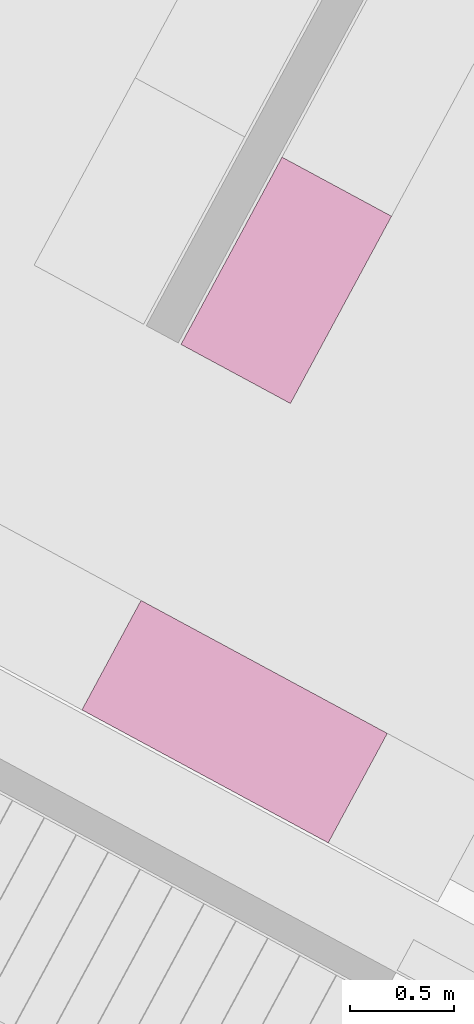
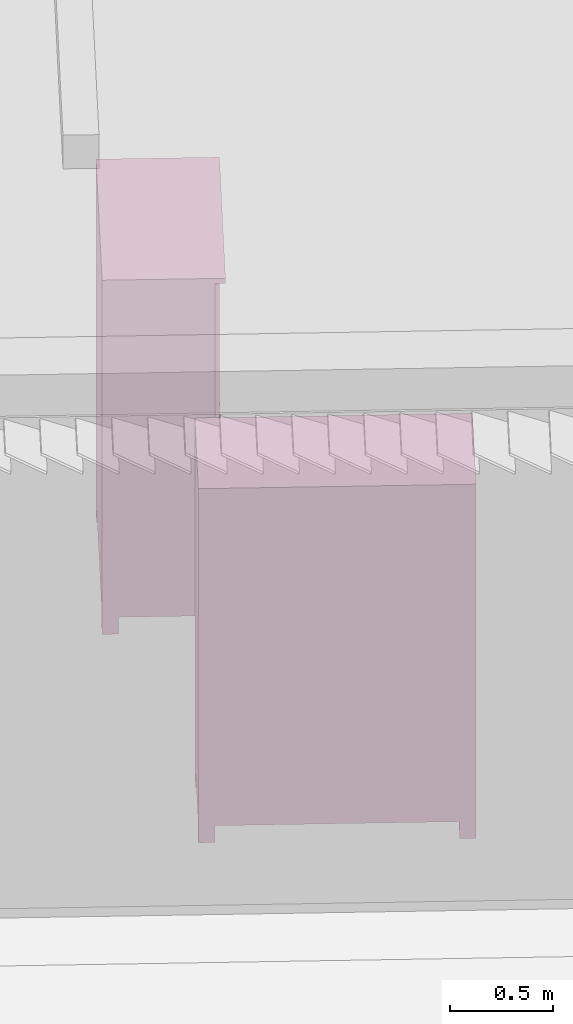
# One storey, part 27 of 48: 2 furnishings.
"""IFC2X3 building model written with IfcOpenShell, lengths in metres."""

from ifc_helpers import new_model, entity, si_unit, converted_unit, derived_unit, money_unit, direction, frame, origin_with_axes, place, context, subcontext, project, spatial, faceted_brep, type_object, element, save


model = new_model("IFC2X3")

# Units and contexts
model_context = context("Model", 3, precision=1e-05, world=origin_with_axes(), true_north=direction((0.0, 1.0)))
body_context = subcontext(model_context, "Body", "Model", "MODEL_VIEW")
ifc_project = project(units=[si_unit("LENGTHUNIT", "METRE"), si_unit("AREAUNIT", "SQUARE_METRE"), si_unit("VOLUMEUNIT", "CUBIC_METRE"), converted_unit("PLANEANGLEUNIT", "DEGREE", entity("IfcPlaneAngleMeasure", 0.0174532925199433), si_unit("PLANEANGLEUNIT", "RADIAN"), dimensions=[0, 0, 0, 0, 0, 0, 0]), money_unit("EUR"), converted_unit("TIMEUNIT", "Year", entity("IfcTimeMeasure", 31556926.0), si_unit("TIMEUNIT", "SECOND"), dimensions=[0, 0, 1, 0, 0, 0, 0]), si_unit("MASSUNIT", "GRAM", prefix="KILO"), si_unit("THERMODYNAMICTEMPERATUREUNIT", "DEGREE_CELSIUS"), si_unit("LUMINOUSINTENSITYUNIT", "LUMEN"), si_unit("ENERGYUNIT", "JOULE", prefix="MEGA"), derived_unit("THERMALCONDUCTANCEUNIT", [(si_unit("POWERUNIT", "WATT"), 1), (si_unit("LENGTHUNIT", "METRE"), -1), (si_unit("THERMODYNAMICTEMPERATUREUNIT", "KELVIN"), -1)]), derived_unit("SPECIFICHEATCAPACITYUNIT", [(si_unit("ENERGYUNIT", "JOULE"), 1), (si_unit("MASSUNIT", "GRAM", prefix="KILO"), -1), (si_unit("THERMODYNAMICTEMPERATUREUNIT", "KELVIN"), -1)]), derived_unit("MASSDENSITYUNIT", [(si_unit("MASSUNIT", "GRAM", prefix="KILO"), 1), (si_unit("VOLUMEUNIT", "CUBIC_METRE"), -1)])], contexts=[model_context])

# Site, building, storey
site_placement = place(None, frame((-3.949935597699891, 1.740105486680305, 0.0), z_axis=(0.0, 0.0, 1.0), x_axis=(0.8799804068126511, -0.475009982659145, 0.0)))
site = spatial("IfcSite", under=ifc_project, at=site_placement, Name="Gelände", CompositionType="ELEMENT")
building_placement = place(site_placement, origin_with_axes())
building = spatial("IfcBuilding", under=site, at=building_placement, Name="Gebäude", CompositionType="ELEMENT")
storey_placement = place(building_placement, frame((0.0, 0.0, 4.55), z_axis=(0.0, 0.0, 1.0), x_axis=(1.0, 0.0, 0.0)))
storey = spatial("IfcBuildingStorey", under=building, at=storey_placement, Name="Staffelgeschoss", CompositionType="ELEMENT", Elevation=4.55)

# Furnishings
furnishing_element_type = type_object("IfcFurnishingElementType", Name="Kleiderschrank 22")
furnishing_1_placement = place(storey_placement, frame((17.20040854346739, 2.239992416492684, 0.0), z_axis=(0.0, 0.0, 1.0), x_axis=(-1.0, 0.0, 0.0)))
element("IfcFurnishingElement", 1, at=furnishing_1_placement, inside=storey, type_object=furnishing_element_type, Name="Objekt-0066", context=body_context, shape_type="Brep", body=[
    faceted_brep([(-0.02000000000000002, 0.6000000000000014, 0.12), (-0.02000000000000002, 0.6000000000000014, 2.05), (-0.02000000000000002, 0.5800000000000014, 2.05), (-0.02000000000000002, 0.5800000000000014, 0.12), (-1.330000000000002, 0.6000000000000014, 0.12), (-1.330000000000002, 0.6000000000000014, 2.05), (-1.330000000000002, 0.5800000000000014, 2.05), (-1.330000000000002, 0.5800000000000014, 0.12)], [[[0, 1, 2, 3]], [[4, 5, 1, 0]], [[1, 5, 6, 2]], [[3, 2, 6, 7]], [[0, 3, 7, 4]], [[7, 6, 5, 4]]]),
    faceted_brep([(-1.350000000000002, 0.05000000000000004, 0.1), (-1.350000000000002, 0.6000000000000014, 0.1), (-1.330000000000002, 0.6000000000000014, 0.1), (-1.330000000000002, 0.05000000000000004, 0.1), (-1.350000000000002, 0.05000000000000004, 2.07), (-1.350000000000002, 0.6000000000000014, 2.07), (-1.330000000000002, 0.6000000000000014, 2.07), (-1.330000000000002, 0.05000000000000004, 2.07)], [[[0, 1, 2, 3]], [[0, 4, 5, 1]], [[1, 5, 6, 2]], [[2, 6, 7, 3]], [[3, 7, 4, 0]], [[7, 6, 5, 4]]]),
    faceted_brep([(-0.02, 0.05000000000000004, 0.1), (-0.02, 0.6000000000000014, 0.1), (0.0, 0.6000000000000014, 0.1), (0.0, 0.05000000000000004, 0.1), (-0.02, 0.05000000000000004, 2.07), (-0.02, 0.6000000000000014, 2.07), (0.0, 0.6000000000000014, 2.07), (0.0, 0.05000000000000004, 2.07)], [[[0, 1, 2, 3]], [[0, 4, 5, 1]], [[1, 5, 6, 2]], [[2, 6, 7, 3]], [[3, 7, 4, 0]], [[7, 6, 5, 4]]]),
    faceted_brep([(-1.330000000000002, 0.05000000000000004, 0.1), (-1.330000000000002, 0.6000000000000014, 0.1), (-0.02000000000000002, 0.6000000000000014, 0.1), (-0.02000000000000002, 0.05000000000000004, 0.1), (-1.330000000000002, 0.05000000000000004, 0.12), (-1.330000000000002, 0.6000000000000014, 0.12), (-0.02000000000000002, 0.6000000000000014, 0.12), (-0.02000000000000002, 0.05000000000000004, 0.12)], [[[0, 1, 2, 3]], [[0, 4, 5, 1]], [[1, 5, 6, 2]], [[2, 6, 7, 3]], [[3, 7, 4, 0]], [[7, 6, 5, 4]]]),
    faceted_brep([(-1.330000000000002, 0.05000000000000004, 2.05), (-1.330000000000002, 0.6000000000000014, 2.05), (-0.02000000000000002, 0.6000000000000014, 2.05), (-0.02000000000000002, 0.05000000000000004, 2.05), (-1.330000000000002, 0.05000000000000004, 2.07), (-1.330000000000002, 0.6000000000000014, 2.07), (-0.02000000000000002, 0.6000000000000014, 2.07), (-0.02000000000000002, 0.05000000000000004, 2.07)], [[[0, 1, 2, 3]], [[0, 4, 5, 1]], [[1, 5, 6, 2]], [[2, 6, 7, 3]], [[3, 7, 4, 0]], [[7, 6, 5, 4]]]),
    faceted_brep([(-1.350000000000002, 0.6000000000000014, 2.07), (-1.350000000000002, 0.0, 2.07), (-1.350000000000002, 0.0, 2.1), (-1.350000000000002, 0.6000000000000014, 2.1), (0.0, 0.6000000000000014, 2.07), (0.0, 0.0, 2.07), (0.0, 0.0, 2.1), (0.0, 0.6000000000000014, 2.1)], [[[0, 1, 2, 3]], [[0, 4, 5, 1]], [[1, 5, 6, 2]], [[3, 2, 6, 7]], [[4, 0, 3, 7]], [[5, 4, 7, 6]]]),
    faceted_brep([(-0.08000000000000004, 0.5200000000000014, 0.0), (-0.08000000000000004, 0.5200000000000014, 0.1), (-0.08000000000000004, 0.6000000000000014, 0.1), (-0.08000000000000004, 0.6000000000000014, 0.0), (0.0, 0.5200000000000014, 0.0), (0.0, 0.5200000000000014, 0.1), (0.0, 0.6000000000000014, 0.1), (0.0, 0.6000000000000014, 0.0)], [[[0, 1, 2, 3]], [[4, 5, 1, 0]], [[1, 5, 6, 2]], [[3, 2, 6, 7]], [[0, 3, 7, 4]], [[7, 6, 5, 4]]]),
    faceted_brep([(-1.350000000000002, 0.5200000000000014, 0.0), (-1.350000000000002, 0.5200000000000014, 0.1), (-1.350000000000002, 0.6000000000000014, 0.1), (-1.350000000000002, 0.6000000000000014, 0.0), (-1.270000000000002, 0.5200000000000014, 0.0), (-1.270000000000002, 0.5200000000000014, 0.1), (-1.270000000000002, 0.6000000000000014, 0.1), (-1.270000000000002, 0.6000000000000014, 0.0)], [[[0, 1, 2, 3]], [[4, 5, 1, 0]], [[1, 5, 6, 2]], [[3, 2, 6, 7]], [[0, 3, 7, 4]], [[7, 6, 5, 4]]]),
    faceted_brep([(-0.08000000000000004, 0.05000000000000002, 0.0), (-0.08000000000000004, 0.05000000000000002, 0.1), (-0.08000000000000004, 0.13, 0.1), (-0.08000000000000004, 0.13, 0.0), (0.0, 0.05000000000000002, 0.0), (0.0, 0.05000000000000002, 0.1), (0.0, 0.13, 0.1), (0.0, 0.13, 0.0)], [[[0, 1, 2, 3]], [[4, 5, 1, 0]], [[1, 5, 6, 2]], [[3, 2, 6, 7]], [[0, 3, 7, 4]], [[7, 6, 5, 4]]]),
    faceted_brep([(-1.350000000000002, 0.05000000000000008, 0.0), (-1.350000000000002, 0.05000000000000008, 0.1), (-1.350000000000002, 0.1300000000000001, 0.1), (-1.350000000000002, 0.1300000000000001, 0.0), (-1.270000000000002, 0.05000000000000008, 0.0), (-1.270000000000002, 0.05000000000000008, 0.1), (-1.270000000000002, 0.1300000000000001, 0.1), (-1.270000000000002, 0.1300000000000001, 0.0)], [[[0, 1, 2, 3]], [[4, 5, 1, 0]], [[1, 5, 6, 2]], [[3, 2, 6, 7]], [[0, 3, 7, 4]], [[7, 6, 5, 4]]]),
    faceted_brep([(-0.6745000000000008, 0.05, 0.1104999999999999), (-0.6745000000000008, 0.03, 0.1104999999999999), (-0.6745000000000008, 0.03000000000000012, 2.0595), (-0.6745000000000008, 0.05000000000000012, 2.0595), (-0.6445000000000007, 0.05, 0.1405), (-0.6445000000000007, 0.03000000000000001, 0.1405), (-0.6445000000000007, 0.03000000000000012, 2.0295), (-0.6445000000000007, 0.05000000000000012, 2.0295)], [[[0, 1, 2, 3]], [[4, 5, 1, 0]], [[1, 5, 6, 2]], [[3, 2, 6, 7]], [[0, 3, 7, 4]], [[7, 6, 5, 4]]]),
    faceted_brep([(-0.04050000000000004, 0.05, 0.1405), (-0.04050000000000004, 0.03000000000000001, 0.1405), (-0.04050000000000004, 0.03000000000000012, 2.0295), (-0.04050000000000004, 0.05000000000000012, 2.0295), (-0.01050000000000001, 0.05, 0.1104999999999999), (-0.01050000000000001, 0.03, 0.1104999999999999), (-0.01050000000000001, 0.03000000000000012, 2.0595), (-0.01050000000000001, 0.05000000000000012, 2.0595)], [[[0, 1, 2, 3]], [[4, 5, 1, 0]], [[1, 5, 6, 2]], [[3, 2, 6, 7]], [[0, 3, 7, 4]], [[7, 6, 5, 4]]]),
    faceted_brep([(-0.01050000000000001, 0.05, 0.1104999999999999), (-0.01050000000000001, 0.03, 0.1104999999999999), (-0.6745000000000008, 0.03, 0.1104999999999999), (-0.6745000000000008, 0.05, 0.1104999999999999), (-0.04050000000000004, 0.05, 0.1405), (-0.04050000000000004, 0.03000000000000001, 0.1405), (-0.6445000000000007, 0.03000000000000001, 0.1405), (-0.6445000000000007, 0.05, 0.1405)], [[[0, 1, 2, 3]], [[4, 5, 1, 0]], [[1, 5, 6, 2]], [[3, 2, 6, 7]], [[0, 3, 7, 4]], [[7, 6, 5, 4]]]),
    faceted_brep([(-0.04050000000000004, 0.05000000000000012, 2.0295), (-0.04050000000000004, 0.03000000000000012, 2.0295), (-0.6445000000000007, 0.03000000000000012, 2.0295), (-0.6445000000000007, 0.05000000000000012, 2.0295), (-0.01050000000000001, 0.05000000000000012, 2.0595), (-0.01050000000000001, 0.03000000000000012, 2.0595), (-0.6745000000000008, 0.03000000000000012, 2.0595), (-0.6745000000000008, 0.05000000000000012, 2.0595)], [[[0, 1, 2, 3]], [[4, 5, 1, 0]], [[1, 5, 6, 2]], [[3, 2, 6, 7]], [[0, 3, 7, 4]], [[7, 6, 5, 4]]]),
    faceted_brep([(-0.6445000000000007, 0.04500000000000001, 0.1405), (-0.6445000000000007, 0.035, 0.1405), (-0.6445000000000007, 0.03500000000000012, 2.0295), (-0.6445000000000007, 0.04500000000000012, 2.0295), (-0.04050000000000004, 0.04500000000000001, 0.1405), (-0.04050000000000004, 0.035, 0.1405), (-0.04050000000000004, 0.03500000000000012, 2.0295), (-0.04050000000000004, 0.04500000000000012, 2.0295)], [[[0, 1, 2, 3]], [[4, 5, 1, 0]], [[1, 5, 6, 2]], [[3, 2, 6, 7]], [[0, 3, 7, 4]], [[7, 6, 5, 4]]]),
    faceted_brep([(-0.6343923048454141, 0.035, 0.954), (-0.6360000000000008, 0.035, 0.96), (-0.6343923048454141, 0.035, 0.966), (-0.6300000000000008, 0.035, 0.9703923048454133), (-0.6240000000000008, 0.035, 0.972), (-0.6180000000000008, 0.035, 0.9703923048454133), (-0.6136076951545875, 0.035, 0.966), (-0.6120000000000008, 0.035, 0.96), (-0.6136076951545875, 0.035, 0.954), (-0.6180000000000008, 0.035, 0.9496076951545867), (-0.6240000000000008, 0.035, 0.948), (-0.6300000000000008, 0.035, 0.9496076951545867), (-0.6343923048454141, 0.01, 0.954), (-0.6360000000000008, 0.01, 0.96), (-0.6343923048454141, 0.01, 0.966), (-0.6300000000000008, 0.01, 0.9703923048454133), (-0.6240000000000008, 0.01, 0.972), (-0.6180000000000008, 0.01, 0.9703923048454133), (-0.6136076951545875, 0.01, 0.966), (-0.6120000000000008, 0.01, 0.96), (-0.6136076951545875, 0.01, 0.954), (-0.6180000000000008, 0.01, 0.9496076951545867), (-0.6240000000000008, 0.01, 0.948), (-0.6300000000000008, 0.01, 0.9496076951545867)], [[[0, 1, 2, 3, 4, 5, 6, 7, 8, 9, 10, 11]], [[0, 12, 13, 1]], [[1, 13, 14, 2]], [[2, 14, 15, 3]], [[3, 15, 16, 4]], [[4, 16, 17, 5]], [[5, 17, 18, 6]], [[6, 18, 19, 7]], [[7, 19, 20, 8]], [[8, 20, 21, 9]], [[9, 21, 22, 10]], [[10, 22, 23, 11]], [[11, 23, 12, 0]], [[12, 23, 22, 21, 20, 19, 18, 17, 16, 15, 14, 13]]]),
    faceted_brep([(-1.340500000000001, 0.05, 0.1104999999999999), (-1.340500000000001, 0.03, 0.1104999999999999), (-1.340500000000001, 0.03000000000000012, 2.0595), (-1.340500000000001, 0.05000000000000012, 2.0595), (-1.310500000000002, 0.05, 0.1405), (-1.310500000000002, 0.03000000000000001, 0.1405), (-1.310500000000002, 0.03000000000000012, 2.0295), (-1.310500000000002, 0.05000000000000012, 2.0295)], [[[0, 1, 2, 3]], [[4, 5, 1, 0]], [[1, 5, 6, 2]], [[3, 2, 6, 7]], [[0, 3, 7, 4]], [[7, 6, 5, 4]]]),
    faceted_brep([(-0.7065000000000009, 0.05, 0.1405), (-0.7065000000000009, 0.03000000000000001, 0.1405), (-0.7065000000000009, 0.03000000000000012, 2.0295), (-0.7065000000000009, 0.05000000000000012, 2.0295), (-0.6765000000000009, 0.05, 0.1104999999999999), (-0.6765000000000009, 0.03, 0.1104999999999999), (-0.6765000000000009, 0.03000000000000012, 2.0595), (-0.6765000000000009, 0.05000000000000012, 2.0595)], [[[0, 1, 2, 3]], [[4, 5, 1, 0]], [[1, 5, 6, 2]], [[3, 2, 6, 7]], [[0, 3, 7, 4]], [[7, 6, 5, 4]]]),
    faceted_brep([(-0.6765000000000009, 0.05, 0.1104999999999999), (-0.6765000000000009, 0.03, 0.1104999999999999), (-1.340500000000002, 0.03, 0.1104999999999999), (-1.340500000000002, 0.05, 0.1104999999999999), (-0.7065000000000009, 0.05, 0.1405), (-0.7065000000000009, 0.03000000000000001, 0.1405), (-1.310500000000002, 0.03000000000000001, 0.1405), (-1.310500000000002, 0.05, 0.1405)], [[[0, 1, 2, 3]], [[4, 5, 1, 0]], [[1, 5, 6, 2]], [[3, 2, 6, 7]], [[0, 3, 7, 4]], [[7, 6, 5, 4]]]),
    faceted_brep([(-0.7065000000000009, 0.05000000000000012, 2.0295), (-0.7065000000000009, 0.03000000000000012, 2.0295), (-1.310500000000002, 0.03000000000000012, 2.0295), (-1.310500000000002, 0.05000000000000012, 2.0295), (-0.6765000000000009, 0.05000000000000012, 2.0595), (-0.6765000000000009, 0.03000000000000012, 2.0595), (-1.340500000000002, 0.03000000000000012, 2.0595), (-1.340500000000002, 0.05000000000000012, 2.0595)], [[[0, 1, 2, 3]], [[4, 5, 1, 0]], [[1, 5, 6, 2]], [[3, 2, 6, 7]], [[0, 3, 7, 4]], [[7, 6, 5, 4]]]),
    faceted_brep([(-1.310500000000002, 0.04500000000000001, 0.1405), (-1.310500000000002, 0.04000000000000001, 0.1405), (-1.310500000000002, 0.04000000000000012, 2.0295), (-1.310500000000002, 0.04500000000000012, 2.0295), (-0.7065000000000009, 0.04500000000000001, 0.1405), (-0.7065000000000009, 0.04000000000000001, 0.1405), (-0.7065000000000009, 0.04000000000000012, 2.0295), (-0.7065000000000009, 0.04500000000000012, 2.0295)], [[[0, 1, 2, 3]], [[4, 5, 1, 0]], [[1, 5, 6, 2]], [[3, 2, 6, 7]], [[0, 3, 7, 4]], [[7, 6, 5, 4]]]),
    faceted_brep([(-1.310500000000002, 0.04000000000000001, 0.1405), (-1.310500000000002, 0.03500000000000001, 0.1405), (-1.310500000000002, 0.03500000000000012, 2.0295), (-1.310500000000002, 0.04000000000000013, 2.0295), (-0.7065000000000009, 0.04000000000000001, 0.1405), (-0.7065000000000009, 0.03500000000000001, 0.1405), (-0.7065000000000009, 0.03500000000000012, 2.0295), (-0.7065000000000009, 0.04000000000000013, 2.0295)], [[[0, 1, 2, 3]], [[4, 5, 1, 0]], [[1, 5, 6, 2]], [[3, 2, 6, 7]], [[0, 3, 7, 4]], [[7, 6, 5, 4]]]),
    faceted_brep([(-0.7156076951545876, 0.035, 0.954), (-0.7200000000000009, 0.035, 0.9496076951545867), (-0.7260000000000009, 0.035, 0.948), (-0.7320000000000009, 0.035, 0.9496076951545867), (-0.7363923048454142, 0.035, 0.954), (-0.7380000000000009, 0.035, 0.96), (-0.7363923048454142, 0.035, 0.966), (-0.7320000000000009, 0.035, 0.9703923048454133), (-0.7260000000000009, 0.035, 0.972), (-0.7200000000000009, 0.035, 0.9703923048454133), (-0.7156076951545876, 0.035, 0.966), (-0.7140000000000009, 0.035, 0.96), (-0.7156076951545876, 0.01, 0.954), (-0.7200000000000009, 0.01, 0.9496076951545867), (-0.7260000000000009, 0.01, 0.948), (-0.7320000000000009, 0.01, 0.9496076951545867), (-0.7363923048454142, 0.01, 0.954), (-0.7380000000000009, 0.01, 0.96), (-0.7363923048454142, 0.01, 0.966), (-0.7320000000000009, 0.01, 0.9703923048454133), (-0.7260000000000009, 0.01, 0.972), (-0.7200000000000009, 0.01, 0.9703923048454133), (-0.7156076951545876, 0.01, 0.966), (-0.7140000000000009, 0.01, 0.96)], [[[0, 1, 2, 3, 4, 5, 6, 7, 8, 9, 10, 11]], [[1, 0, 12, 13]], [[2, 1, 13, 14]], [[3, 2, 14, 15]], [[4, 3, 15, 16]], [[5, 4, 16, 17]], [[6, 5, 17, 18]], [[7, 6, 18, 19]], [[8, 7, 19, 20]], [[9, 8, 20, 21]], [[10, 9, 21, 22]], [[11, 10, 22, 23]], [[0, 11, 23, 12]], [[12, 23, 22, 21, 20, 19, 18, 17, 16, 15, 14, 13]]]),
])
furnishing_2_placement = place(storey_placement, frame((17.38349488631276, 4.444526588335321, 0.0), z_axis=(0.0, 0.0, 1.0), x_axis=(0.0, 1.0, 0.0)))
element("IfcFurnishingElement", 2, at=furnishing_2_placement, inside=storey, type_object=furnishing_element_type, Name="Objekt-0066", context=body_context, shape_type="Brep", body=[
    faceted_brep([(-0.02000000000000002, 0.6000000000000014, 0.12), (-0.02000000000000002, 0.6000000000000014, 2.05), (-0.02000000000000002, 0.5800000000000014, 2.05), (-0.02000000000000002, 0.5800000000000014, 0.12), (-1.006465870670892, 0.6000000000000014, 0.12), (-1.006465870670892, 0.6000000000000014, 2.05), (-1.006465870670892, 0.5800000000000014, 2.05), (-1.006465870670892, 0.5800000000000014, 0.12)], [[[0, 1, 2, 3]], [[4, 5, 1, 0]], [[1, 5, 6, 2]], [[3, 2, 6, 7]], [[0, 3, 7, 4]], [[7, 6, 5, 4]]]),
    faceted_brep([(-1.026465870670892, 0.05000000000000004, 0.1), (-1.026465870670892, 0.6000000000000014, 0.1), (-1.006465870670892, 0.6000000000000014, 0.1), (-1.006465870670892, 0.05000000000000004, 0.1), (-1.026465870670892, 0.05000000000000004, 2.07), (-1.026465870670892, 0.6000000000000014, 2.07), (-1.006465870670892, 0.6000000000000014, 2.07), (-1.006465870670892, 0.05000000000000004, 2.07)], [[[0, 1, 2, 3]], [[0, 4, 5, 1]], [[1, 5, 6, 2]], [[2, 6, 7, 3]], [[3, 7, 4, 0]], [[7, 6, 5, 4]]]),
    faceted_brep([(-0.02, 0.05000000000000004, 0.1), (-0.02, 0.6000000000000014, 0.1), (0.0, 0.6000000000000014, 0.1), (0.0, 0.05000000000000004, 0.1), (-0.02, 0.05000000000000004, 2.07), (-0.02, 0.6000000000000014, 2.07), (0.0, 0.6000000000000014, 2.07), (0.0, 0.05000000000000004, 2.07)], [[[0, 1, 2, 3]], [[0, 4, 5, 1]], [[1, 5, 6, 2]], [[2, 6, 7, 3]], [[3, 7, 4, 0]], [[7, 6, 5, 4]]]),
    faceted_brep([(-1.006465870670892, 0.05000000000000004, 0.1), (-1.006465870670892, 0.6000000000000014, 0.1), (-0.02000000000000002, 0.6000000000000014, 0.1), (-0.02000000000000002, 0.05000000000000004, 0.1), (-1.006465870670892, 0.05000000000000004, 0.12), (-1.006465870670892, 0.6000000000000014, 0.12), (-0.02000000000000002, 0.6000000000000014, 0.12), (-0.02000000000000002, 0.05000000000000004, 0.12)], [[[0, 1, 2, 3]], [[0, 4, 5, 1]], [[1, 5, 6, 2]], [[2, 6, 7, 3]], [[3, 7, 4, 0]], [[7, 6, 5, 4]]]),
    faceted_brep([(-1.006465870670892, 0.05000000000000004, 2.05), (-1.006465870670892, 0.6000000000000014, 2.05), (-0.02000000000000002, 0.6000000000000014, 2.05), (-0.02000000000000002, 0.05000000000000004, 2.05), (-1.006465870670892, 0.05000000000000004, 2.07), (-1.006465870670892, 0.6000000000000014, 2.07), (-0.02000000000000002, 0.6000000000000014, 2.07), (-0.02000000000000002, 0.05000000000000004, 2.07)], [[[0, 1, 2, 3]], [[0, 4, 5, 1]], [[1, 5, 6, 2]], [[2, 6, 7, 3]], [[3, 7, 4, 0]], [[7, 6, 5, 4]]]),
    faceted_brep([(-1.026465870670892, 0.6000000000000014, 2.07), (-1.026465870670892, 0.0, 2.07), (-1.026465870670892, 0.0, 2.1), (-1.026465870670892, 0.6000000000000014, 2.1), (0.0, 0.6000000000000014, 2.07), (0.0, 0.0, 2.07), (0.0, 0.0, 2.1), (0.0, 0.6000000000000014, 2.1)], [[[0, 1, 2, 3]], [[0, 4, 5, 1]], [[1, 5, 6, 2]], [[3, 2, 6, 7]], [[4, 0, 3, 7]], [[5, 4, 7, 6]]]),
    faceted_brep([(-0.07999999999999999, 0.5200000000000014, 0.0), (-0.07999999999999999, 0.5200000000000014, 0.1), (-0.07999999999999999, 0.6000000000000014, 0.1), (-0.07999999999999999, 0.6000000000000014, 0.0), (0.0, 0.5200000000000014, 0.0), (0.0, 0.5200000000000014, 0.1), (0.0, 0.6000000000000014, 0.1), (0.0, 0.6000000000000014, 0.0)], [[[0, 1, 2, 3]], [[4, 5, 1, 0]], [[1, 5, 6, 2]], [[3, 2, 6, 7]], [[0, 3, 7, 4]], [[7, 6, 5, 4]]]),
    faceted_brep([(-1.026465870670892, 0.5200000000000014, 0.0), (-1.026465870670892, 0.5200000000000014, 0.1), (-1.026465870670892, 0.6000000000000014, 0.1), (-1.026465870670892, 0.6000000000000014, 0.0), (-0.9464658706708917, 0.5200000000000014, 0.0), (-0.9464658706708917, 0.5200000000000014, 0.1), (-0.9464658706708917, 0.6000000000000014, 0.1), (-0.9464658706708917, 0.6000000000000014, 0.0)], [[[0, 1, 2, 3]], [[4, 5, 1, 0]], [[1, 5, 6, 2]], [[3, 2, 6, 7]], [[0, 3, 7, 4]], [[7, 6, 5, 4]]]),
    faceted_brep([(-0.07999999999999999, 0.05000000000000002, 0.0), (-0.07999999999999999, 0.05000000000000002, 0.1), (-0.07999999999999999, 0.13, 0.1), (-0.07999999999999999, 0.13, 0.0), (0.0, 0.05000000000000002, 0.0), (0.0, 0.05000000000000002, 0.1), (0.0, 0.13, 0.1), (0.0, 0.13, 0.0)], [[[0, 1, 2, 3]], [[4, 5, 1, 0]], [[1, 5, 6, 2]], [[3, 2, 6, 7]], [[0, 3, 7, 4]], [[7, 6, 5, 4]]]),
    faceted_brep([(-1.026465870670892, 0.05000000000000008, 0.0), (-1.026465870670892, 0.05000000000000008, 0.1), (-1.026465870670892, 0.1300000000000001, 0.1), (-1.026465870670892, 0.1300000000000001, 0.0), (-0.9464658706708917, 0.05000000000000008, 0.0), (-0.9464658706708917, 0.05000000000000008, 0.1), (-0.9464658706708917, 0.1300000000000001, 0.1), (-0.9464658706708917, 0.1300000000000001, 0.0)], [[[0, 1, 2, 3]], [[4, 5, 1, 0]], [[1, 5, 6, 2]], [[3, 2, 6, 7]], [[0, 3, 7, 4]], [[7, 6, 5, 4]]]),
    faceted_brep([(-0.512732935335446, 0.05, 0.1104999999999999), (-0.512732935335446, 0.03, 0.1104999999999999), (-0.512732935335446, 0.03000000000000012, 2.0595), (-0.512732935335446, 0.05000000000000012, 2.0595), (-0.4827329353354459, 0.05, 0.1405), (-0.4827329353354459, 0.03000000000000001, 0.1405), (-0.4827329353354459, 0.03000000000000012, 2.0295), (-0.4827329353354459, 0.05000000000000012, 2.0295)], [[[0, 1, 2, 3]], [[4, 5, 1, 0]], [[1, 5, 6, 2]], [[3, 2, 6, 7]], [[0, 3, 7, 4]], [[7, 6, 5, 4]]]),
    faceted_brep([(-0.04050000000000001, 0.05, 0.1405), (-0.04050000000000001, 0.03000000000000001, 0.1405), (-0.04050000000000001, 0.03000000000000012, 2.0295), (-0.04050000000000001, 0.05000000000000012, 2.0295), (-0.01050000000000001, 0.05, 0.1104999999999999), (-0.01050000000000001, 0.03, 0.1104999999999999), (-0.01050000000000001, 0.03000000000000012, 2.0595), (-0.01050000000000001, 0.05000000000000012, 2.0595)], [[[0, 1, 2, 3]], [[4, 5, 1, 0]], [[1, 5, 6, 2]], [[3, 2, 6, 7]], [[0, 3, 7, 4]], [[7, 6, 5, 4]]]),
    faceted_brep([(-0.01050000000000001, 0.05, 0.1104999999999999), (-0.01050000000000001, 0.03, 0.1104999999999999), (-0.512732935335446, 0.03, 0.1104999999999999), (-0.512732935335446, 0.05, 0.1104999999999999), (-0.04050000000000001, 0.05, 0.1405), (-0.04050000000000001, 0.03000000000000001, 0.1405), (-0.4827329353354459, 0.03000000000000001, 0.1405), (-0.4827329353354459, 0.05, 0.1405)], [[[0, 1, 2, 3]], [[4, 5, 1, 0]], [[1, 5, 6, 2]], [[3, 2, 6, 7]], [[0, 3, 7, 4]], [[7, 6, 5, 4]]]),
    faceted_brep([(-0.04050000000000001, 0.05000000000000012, 2.0295), (-0.04050000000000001, 0.03000000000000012, 2.0295), (-0.4827329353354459, 0.03000000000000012, 2.0295), (-0.4827329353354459, 0.05000000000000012, 2.0295), (-0.01050000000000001, 0.05000000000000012, 2.0595), (-0.01050000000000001, 0.03000000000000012, 2.0595), (-0.512732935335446, 0.03000000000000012, 2.0595), (-0.512732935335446, 0.05000000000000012, 2.0595)], [[[0, 1, 2, 3]], [[4, 5, 1, 0]], [[1, 5, 6, 2]], [[3, 2, 6, 7]], [[0, 3, 7, 4]], [[7, 6, 5, 4]]]),
    faceted_brep([(-0.4827329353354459, 0.04500000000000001, 0.1405), (-0.4827329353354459, 0.035, 0.1405), (-0.4827329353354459, 0.03500000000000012, 2.0295), (-0.4827329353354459, 0.04500000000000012, 2.0295), (-0.04050000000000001, 0.04500000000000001, 0.1405), (-0.04050000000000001, 0.035, 0.1405), (-0.04050000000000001, 0.03500000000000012, 2.0295), (-0.04050000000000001, 0.04500000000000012, 2.0295)], [[[0, 1, 2, 3]], [[4, 5, 1, 0]], [[1, 5, 6, 2]], [[3, 2, 6, 7]], [[0, 3, 7, 4]], [[7, 6, 5, 4]]]),
    faceted_brep([(-0.4726252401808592, 0.035, 0.954), (-0.4742329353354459, 0.035, 0.96), (-0.4726252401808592, 0.035, 0.966), (-0.4682329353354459, 0.035, 0.9703923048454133), (-0.4622329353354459, 0.035, 0.972), (-0.4562329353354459, 0.035, 0.9703923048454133), (-0.4518406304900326, 0.035, 0.966), (-0.4502329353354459, 0.035, 0.96), (-0.4518406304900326, 0.035, 0.954), (-0.4562329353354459, 0.035, 0.9496076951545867), (-0.4622329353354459, 0.035, 0.948), (-0.4682329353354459, 0.035, 0.9496076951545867), (-0.4726252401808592, 0.01, 0.954), (-0.4742329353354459, 0.01, 0.96), (-0.4726252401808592, 0.01, 0.966), (-0.4682329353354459, 0.01, 0.9703923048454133), (-0.4622329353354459, 0.01, 0.972), (-0.4562329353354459, 0.01, 0.9703923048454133), (-0.4518406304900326, 0.01, 0.966), (-0.4502329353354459, 0.01, 0.96), (-0.4518406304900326, 0.01, 0.954), (-0.4562329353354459, 0.01, 0.9496076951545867), (-0.4622329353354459, 0.01, 0.948), (-0.4682329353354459, 0.01, 0.9496076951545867)], [[[0, 1, 2, 3, 4, 5, 6, 7, 8, 9, 10, 11]], [[0, 12, 13, 1]], [[1, 13, 14, 2]], [[2, 14, 15, 3]], [[3, 15, 16, 4]], [[4, 16, 17, 5]], [[5, 17, 18, 6]], [[6, 18, 19, 7]], [[7, 19, 20, 8]], [[8, 20, 21, 9]], [[9, 21, 22, 10]], [[10, 22, 23, 11]], [[11, 23, 12, 0]], [[12, 23, 22, 21, 20, 19, 18, 17, 16, 15, 14, 13]]]),
    faceted_brep([(-1.016965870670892, 0.05, 0.1104999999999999), (-1.016965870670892, 0.03, 0.1104999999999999), (-1.016965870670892, 0.03000000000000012, 2.0595), (-1.016965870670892, 0.05000000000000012, 2.0595), (-0.9869658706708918, 0.05, 0.1405), (-0.9869658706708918, 0.03000000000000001, 0.1405), (-0.9869658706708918, 0.03000000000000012, 2.0295), (-0.9869658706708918, 0.05000000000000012, 2.0295)], [[[0, 1, 2, 3]], [[4, 5, 1, 0]], [[1, 5, 6, 2]], [[3, 2, 6, 7]], [[0, 3, 7, 4]], [[7, 6, 5, 4]]]),
    faceted_brep([(-0.5447329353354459, 0.05, 0.1405), (-0.5447329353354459, 0.03000000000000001, 0.1405), (-0.5447329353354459, 0.03000000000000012, 2.0295), (-0.5447329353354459, 0.05000000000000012, 2.0295), (-0.514732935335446, 0.05, 0.1104999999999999), (-0.514732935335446, 0.03, 0.1104999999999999), (-0.514732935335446, 0.03000000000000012, 2.0595), (-0.514732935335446, 0.05000000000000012, 2.0595)], [[[0, 1, 2, 3]], [[4, 5, 1, 0]], [[1, 5, 6, 2]], [[3, 2, 6, 7]], [[0, 3, 7, 4]], [[7, 6, 5, 4]]]),
    faceted_brep([(-0.514732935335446, 0.05, 0.1104999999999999), (-0.514732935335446, 0.03, 0.1104999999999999), (-1.016965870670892, 0.03, 0.1104999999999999), (-1.016965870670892, 0.05, 0.1104999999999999), (-0.5447329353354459, 0.05, 0.1405), (-0.5447329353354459, 0.03000000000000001, 0.1405), (-0.9869658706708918, 0.03000000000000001, 0.1405), (-0.9869658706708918, 0.05, 0.1405)], [[[0, 1, 2, 3]], [[4, 5, 1, 0]], [[1, 5, 6, 2]], [[3, 2, 6, 7]], [[0, 3, 7, 4]], [[7, 6, 5, 4]]]),
    faceted_brep([(-0.5447329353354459, 0.05000000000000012, 2.0295), (-0.5447329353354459, 0.03000000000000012, 2.0295), (-0.9869658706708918, 0.03000000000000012, 2.0295), (-0.9869658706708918, 0.05000000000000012, 2.0295), (-0.514732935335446, 0.05000000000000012, 2.0595), (-0.514732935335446, 0.03000000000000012, 2.0595), (-1.016965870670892, 0.03000000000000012, 2.0595), (-1.016965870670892, 0.05000000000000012, 2.0595)], [[[0, 1, 2, 3]], [[4, 5, 1, 0]], [[1, 5, 6, 2]], [[3, 2, 6, 7]], [[0, 3, 7, 4]], [[7, 6, 5, 4]]]),
    faceted_brep([(-0.9869658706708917, 0.04500000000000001, 0.1405), (-0.9869658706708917, 0.04000000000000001, 0.1405), (-0.9869658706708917, 0.04000000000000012, 2.0295), (-0.9869658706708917, 0.04500000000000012, 2.0295), (-0.5447329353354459, 0.04500000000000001, 0.1405), (-0.5447329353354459, 0.04000000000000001, 0.1405), (-0.5447329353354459, 0.04000000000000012, 2.0295), (-0.5447329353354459, 0.04500000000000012, 2.0295)], [[[0, 1, 2, 3]], [[4, 5, 1, 0]], [[1, 5, 6, 2]], [[3, 2, 6, 7]], [[0, 3, 7, 4]], [[7, 6, 5, 4]]]),
    faceted_brep([(-0.9869658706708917, 0.04000000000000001, 0.1405), (-0.9869658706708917, 0.03500000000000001, 0.1405), (-0.9869658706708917, 0.03500000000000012, 2.0295), (-0.9869658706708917, 0.04000000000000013, 2.0295), (-0.5447329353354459, 0.04000000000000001, 0.1405), (-0.5447329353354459, 0.03500000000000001, 0.1405), (-0.5447329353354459, 0.03500000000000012, 2.0295), (-0.5447329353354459, 0.04000000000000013, 2.0295)], [[[0, 1, 2, 3]], [[4, 5, 1, 0]], [[1, 5, 6, 2]], [[3, 2, 6, 7]], [[0, 3, 7, 4]], [[7, 6, 5, 4]]]),
    faceted_brep([(-0.5538406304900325, 0.035, 0.954), (-0.5582329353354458, 0.035, 0.9496076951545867), (-0.5642329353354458, 0.035, 0.948), (-0.5702329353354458, 0.035, 0.9496076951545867), (-0.5746252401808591, 0.035, 0.954), (-0.5762329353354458, 0.035, 0.96), (-0.5746252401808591, 0.035, 0.966), (-0.5702329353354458, 0.035, 0.9703923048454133), (-0.5642329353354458, 0.035, 0.972), (-0.5582329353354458, 0.035, 0.9703923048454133), (-0.5538406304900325, 0.035, 0.966), (-0.5522329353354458, 0.035, 0.96), (-0.5538406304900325, 0.01, 0.954), (-0.5582329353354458, 0.01, 0.9496076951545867), (-0.5642329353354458, 0.01, 0.948), (-0.5702329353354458, 0.01, 0.9496076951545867), (-0.5746252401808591, 0.01, 0.954), (-0.5762329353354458, 0.01, 0.96), (-0.5746252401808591, 0.01, 0.966), (-0.5702329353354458, 0.01, 0.9703923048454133), (-0.5642329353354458, 0.01, 0.972), (-0.5582329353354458, 0.01, 0.9703923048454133), (-0.5538406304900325, 0.01, 0.966), (-0.5522329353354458, 0.01, 0.96)], [[[0, 1, 2, 3, 4, 5, 6, 7, 8, 9, 10, 11]], [[1, 0, 12, 13]], [[2, 1, 13, 14]], [[3, 2, 14, 15]], [[4, 3, 15, 16]], [[5, 4, 16, 17]], [[6, 5, 17, 18]], [[7, 6, 18, 19]], [[8, 7, 19, 20]], [[9, 8, 20, 21]], [[10, 9, 21, 22]], [[11, 10, 22, 23]], [[0, 11, 23, 12]], [[12, 23, 22, 21, 20, 19, 18, 17, 16, 15, 14, 13]]]),
])

save(model, "model.ifc")
